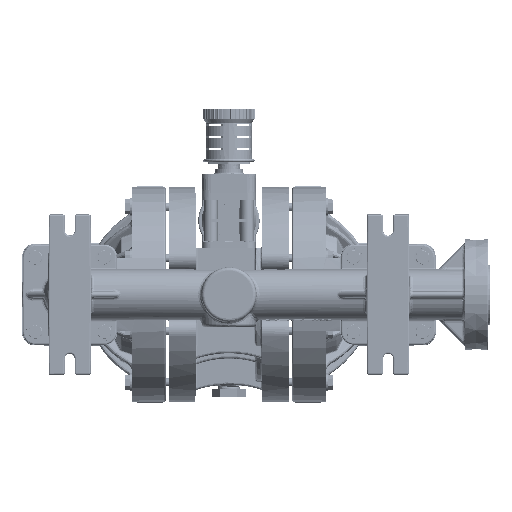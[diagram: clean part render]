
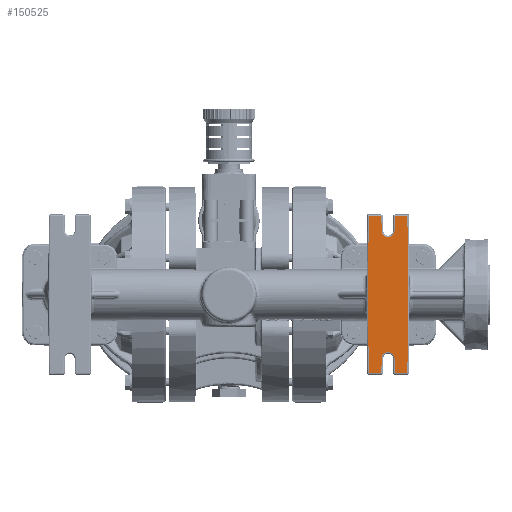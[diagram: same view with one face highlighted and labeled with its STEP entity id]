
A CAD part, front view. The second image highlights one B-rep face of the part: STEP entity #150525.
In plain terms, the highlighted planar face has unit normal (0, -1, 0).
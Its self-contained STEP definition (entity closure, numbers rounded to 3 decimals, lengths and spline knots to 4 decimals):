
#3999=DIRECTION('',(-0.009,0.,1.));
#4000=VECTOR('',#3999,3.0201);
#4001=CARTESIAN_POINT('',(6.8905,-9.579,0.));
#4002=LINE('',#4001,#4000);
#4078=DIRECTION('',(0.009,0.,-1.));
#4079=VECTOR('',#4078,3.0201);
#4080=CARTESIAN_POINT('',(5.3505,-9.579,0.));
#4081=LINE('',#4080,#4079);
#4126=DIRECTION('',(1.,0.,0.));
#4127=VECTOR('',#4126,0.4888);
#4128=CARTESIAN_POINT('',(5.3769,-9.579,-3.02));
#4129=LINE('',#4128,#4127);
#4457=DIRECTION('',(0.009,0.,1.));
#4458=VECTOR('',#4457,0.5603);
#4459=CARTESIAN_POINT('',(5.8656,-9.579,-3.02));
#4460=LINE('',#4459,#4458);
#4470=CARTESIAN_POINT('',(6.1205,-9.579,-2.46));
#4471=DIRECTION('',(0.,1.,0.));
#4472=DIRECTION('',(-1.,0.,0.001));
#4473=AXIS2_PLACEMENT_3D('',#4470,#4471,#4472);
#4515=DIRECTION('',(0.009,0.,-1.));
#4516=VECTOR('',#4515,0.5603);
#4517=CARTESIAN_POINT('',(6.3705,-9.579,-2.4597));
#4518=LINE('',#4517,#4516);
#4865=DIRECTION('',(1.,0.,0.));
#4866=VECTOR('',#4865,0.4888);
#4867=CARTESIAN_POINT('',(6.3754,-9.579,-3.02));
#4868=LINE('',#4867,#4866);
#4883=DIRECTION('',(0.009,0.,1.));
#4884=VECTOR('',#4883,3.0201);
#4885=CARTESIAN_POINT('',(6.8641,-9.579,-3.02));
#4886=LINE('',#4885,#4884);
#6263=DIRECTION('',(-0.009,0.,-1.));
#6264=VECTOR('',#6263,3.0201);
#6265=CARTESIAN_POINT('',(5.3769,-9.579,3.02));
#6266=LINE('',#6265,#6264);
#6307=DIRECTION('',(-1.,0.,0.));
#6308=VECTOR('',#6307,0.4888);
#6309=CARTESIAN_POINT('',(5.8656,-9.579,3.02));
#6310=LINE('',#6309,#6308);
#8230=DIRECTION('',(-1.,0.,0.));
#8231=VECTOR('',#8230,0.4888);
#8232=CARTESIAN_POINT('',(6.8641,-9.579,3.02));
#8233=LINE('',#8232,#8231);
#8243=DIRECTION('',(-0.009,0.,-1.));
#8244=VECTOR('',#8243,0.5603);
#8245=CARTESIAN_POINT('',(6.3754,-9.579,3.02));
#8246=LINE('',#8245,#8244);
#8256=CARTESIAN_POINT('',(6.1205,-9.579,2.46));
#8257=DIRECTION('',(0.,1.,0.));
#8258=DIRECTION('',(1.,0.,-0.001));
#8259=AXIS2_PLACEMENT_3D('',#8256,#8257,#8258);
#8301=DIRECTION('',(-0.009,0.,1.));
#8302=VECTOR('',#8301,0.5603);
#8303=CARTESIAN_POINT('',(5.8705,-9.579,2.4597));
#8304=LINE('',#8303,#8302);
#143267=CARTESIAN_POINT('',(5.3505,-9.579,0.));
#143268=CARTESIAN_POINT('',(5.3769,-9.579,-3.02));
#143269=VERTEX_POINT('',#143267);
#143270=VERTEX_POINT('',#143268);
#143273=CARTESIAN_POINT('',(5.3769,-9.579,3.02));
#143274=VERTEX_POINT('',#143273);
#143277=CARTESIAN_POINT('',(5.8656,-9.579,3.02));
#143278=VERTEX_POINT('',#143277);
#143281=CARTESIAN_POINT('',(5.8705,-9.579,2.4597));
#143282=VERTEX_POINT('',#143281);
#143287=CARTESIAN_POINT('',(6.3705,-9.579,2.4597));
#143288=VERTEX_POINT('',#143287);
#143291=CARTESIAN_POINT('',(6.3754,-9.579,3.02));
#143292=VERTEX_POINT('',#143291);
#143295=CARTESIAN_POINT('',(6.8641,-9.579,3.02));
#143296=VERTEX_POINT('',#143295);
#143301=CARTESIAN_POINT('',(6.8905,-9.579,0.));
#143302=VERTEX_POINT('',#143301);
#143305=CARTESIAN_POINT('',(6.8641,-9.579,-3.02));
#143306=VERTEX_POINT('',#143305);
#143309=CARTESIAN_POINT('',(6.3754,-9.579,-3.02));
#143310=VERTEX_POINT('',#143309);
#143339=CARTESIAN_POINT('',(5.8656,-9.579,-3.02));
#143340=VERTEX_POINT('',#143339);
#143341=CARTESIAN_POINT('',(5.8705,-9.579,-2.4597));
#143342=VERTEX_POINT('',#143341);
#143345=CARTESIAN_POINT('',(6.3705,-9.579,-2.4597));
#143346=VERTEX_POINT('',#143345);
#150491=CARTESIAN_POINT('',(0.,-9.579,0.));
#150492=DIRECTION('',(0.,1.,0.));
#150493=DIRECTION('',(1.,0.,0.));
#150494=AXIS2_PLACEMENT_3D('',#150491,#150492,#150493);
#150495=PLANE('',#150494);
#150497=ORIENTED_EDGE('',*,*,#150496,.F.);
#150499=ORIENTED_EDGE('',*,*,#150498,.F.);
#150501=ORIENTED_EDGE('',*,*,#150500,.F.);
#150503=ORIENTED_EDGE('',*,*,#150502,.F.);
#150505=ORIENTED_EDGE('',*,*,#150504,.F.);
#150507=ORIENTED_EDGE('',*,*,#150506,.F.);
#150509=ORIENTED_EDGE('',*,*,#150508,.F.);
#150510=ORIENTED_EDGE('',*,*,#150481,.F.);
#150512=ORIENTED_EDGE('',*,*,#150511,.F.);
#150514=ORIENTED_EDGE('',*,*,#150513,.F.);
#150516=ORIENTED_EDGE('',*,*,#150515,.F.);
#150518=ORIENTED_EDGE('',*,*,#150517,.F.);
#150520=ORIENTED_EDGE('',*,*,#150519,.F.);
#150522=ORIENTED_EDGE('',*,*,#150521,.F.);
#150523=EDGE_LOOP('',(#150497,#150499,#150501,#150503,#150505,#150507,#150509,
#150510,#150512,#150514,#150516,#150518,#150520,#150522));
#150524=FACE_OUTER_BOUND('',#150523,.F.);
#150525=ADVANCED_FACE('',(#150524),#150495,.F.);
#4474=CIRCLE('',#4473,0.25);
#8260=CIRCLE('',#8259,0.25);
#150481=EDGE_CURVE('',#143302,#143296,#4002,.T.);
#150496=EDGE_CURVE('',#143269,#143270,#4081,.T.);
#150498=EDGE_CURVE('',#143274,#143269,#6266,.T.);
#150500=EDGE_CURVE('',#143278,#143274,#6310,.T.);
#150502=EDGE_CURVE('',#143282,#143278,#8304,.T.);
#150504=EDGE_CURVE('',#143288,#143282,#8260,.T.);
#150506=EDGE_CURVE('',#143292,#143288,#8246,.T.);
#150508=EDGE_CURVE('',#143296,#143292,#8233,.T.);
#150511=EDGE_CURVE('',#143306,#143302,#4886,.T.);
#150513=EDGE_CURVE('',#143310,#143306,#4868,.T.);
#150515=EDGE_CURVE('',#143346,#143310,#4518,.T.);
#150517=EDGE_CURVE('',#143342,#143346,#4474,.T.);
#150519=EDGE_CURVE('',#143340,#143342,#4460,.T.);
#150521=EDGE_CURVE('',#143270,#143340,#4129,.T.);
